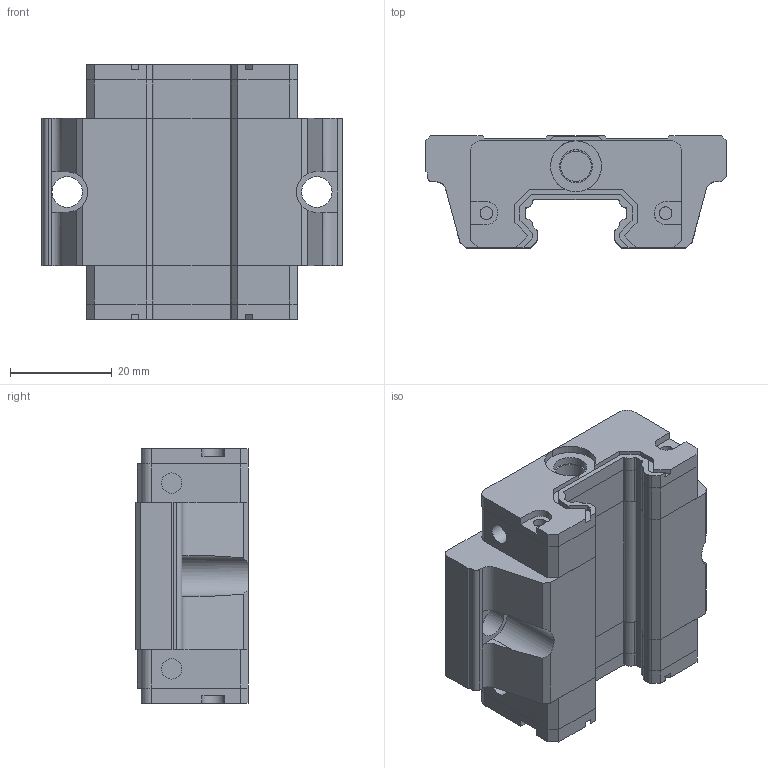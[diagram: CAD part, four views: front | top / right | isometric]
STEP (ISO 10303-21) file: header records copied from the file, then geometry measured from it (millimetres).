
FILE_DESCRIPTION(/* description */ (''),/* implementation_level */ '2;1');
FILE_NAME(/* name */ 'E:\lavoro\RSA20 corretto.step',/* time_stamp */ '2026-08-06T11:31:10+02:00',/* author */ ('spaveluc'),/* organization */ ('TraceParts S.A.S.'),/* preprocessor_version */ 'ST-DEVELOPER v18.1',/* originating_system */ 'AutoCAD Mechanical',/* authorisation */ ' ');
FILE_SCHEMA (('AUTOMOTIVE_DESIGN { 1 0 10303 214 3 1 1 }'));
Length unit declared in the file: millimetre
Products named in the file (3): Product; 1$1$ATF; Product$1$ATF
Assembly tree (2 placements, depth 2):
  Product
    1$1$ATF
    Product$1$ATF
Bounding box: 59 x 22 x 50 mm (x, y, z)
Volume: 40891.1 mm3; surface area: 16928 mm2
Topology: 5 solids, 5 shells, 308 faces, 878 edges, 586 vertices
Faces by surface type: plane 193, cylinder 103, bspline 12
Full cylindrical faces by diameter (mm): 2.5 x8, 4 x4, 6 x6, 6.5 x2
Entity records: 10737 total; most frequent: CARTESIAN_POINT 2432, ORIENTED_EDGE 1760, DIRECTION 1684, EDGE_CURVE 880, LINE 630, VECTOR 630, VERTEX_POINT 586, AXIS2_PLACEMENT_3D 527
